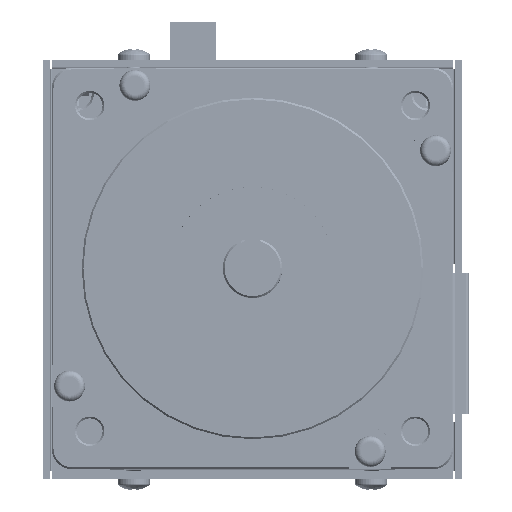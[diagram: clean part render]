
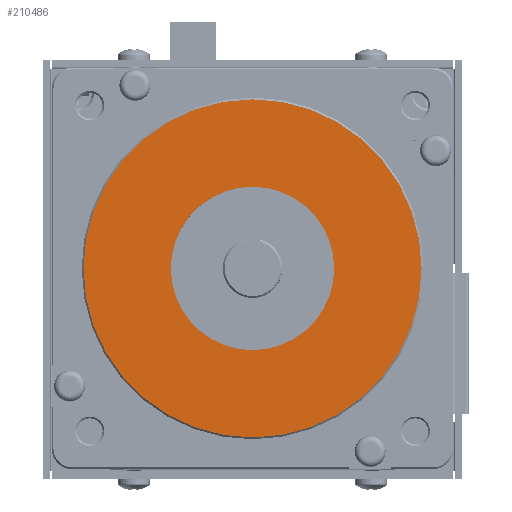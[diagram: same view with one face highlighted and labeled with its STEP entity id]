
A CAD part, top view. The second image highlights one B-rep face of the part: STEP entity #210486.
In plain terms, the highlighted planar face has unit normal (0, 0, 1).
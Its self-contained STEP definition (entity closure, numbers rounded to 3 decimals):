
#28756 = CARTESIAN_POINT ( 'NONE',  ( 0., 0., 1.524 ) ) ;
#28769 = CIRCLE ( 'NONE', #28906, 36.132 ) ;
#28898 = CARTESIAN_POINT ( 'NONE',  ( -36.132, 0., 1.524 ) ) ;
#28901 = CARTESIAN_POINT ( 'NONE',  ( 36.132, 0., 1.524 ) ) ;
#28903 = DIRECTION ( 'NONE',  ( 1., 0., 0. ) ) ;
#28904 = DIRECTION ( 'NONE',  ( 0., 0., 1. ) ) ;
#28906 = AXIS2_PLACEMENT_3D ( 'NONE', #28756, #28904, #28903 ) ;
#30694 = CARTESIAN_POINT ( 'NONE',  ( 17.462, 0., 1.524 ) ) ;
#30697 = CARTESIAN_POINT ( 'NONE',  ( -17.462, 0., 1.524 ) ) ;
#30699 = DIRECTION ( 'NONE',  ( 1., 0., 0. ) ) ;
#30701 = DIRECTION ( 'NONE',  ( 0., 0., 1. ) ) ;
#30704 = CARTESIAN_POINT ( 'NONE',  ( 0., 0., 1.524 ) ) ;
#30706 = AXIS2_PLACEMENT_3D ( 'NONE', #30704, #30701, #30699 ) ;
#30708 = CIRCLE ( 'NONE', #30706, 17.462 ) ;
#73572 = DIRECTION ( 'NONE',  ( 1., 0., 0. ) ) ;
#73574 = DIRECTION ( 'NONE',  ( 0., 0., 1. ) ) ;
#73577 = CARTESIAN_POINT ( 'NONE',  ( 0., 0., 1.524 ) ) ;
#73579 = AXIS2_PLACEMENT_3D ( 'NONE', #73577, #73574, #73572 ) ;
#73581 = CIRCLE ( 'NONE', #73579, 17.462 ) ;
#73585 = DIRECTION ( 'NONE',  ( 1., 0., 0. ) ) ;
#73587 = DIRECTION ( 'NONE',  ( 0., 0., 1. ) ) ;
#73588 = CARTESIAN_POINT ( 'NONE',  ( 0., 0., 1.524 ) ) ;
#73589 = AXIS2_PLACEMENT_3D ( 'NONE', #73588, #73587, #73585 ) ;
#73590 = CIRCLE ( 'NONE', #73589, 36.132 ) ;
#73605 = DIRECTION ( 'NONE',  ( 1., 0., 0. ) ) ;
#73606 = DIRECTION ( 'NONE',  ( 0., 0., 1. ) ) ;
#73607 = CARTESIAN_POINT ( 'NONE',  ( 0., 0., 1.524 ) ) ;
#73612 = AXIS2_PLACEMENT_3D ( 'NONE', #73607, #73606, #73605 ) ;
#73614 = PLANE ( 'NONE',  #73612 ) ;
#73615 = FACE_BOUND ( 'NONE', #210465, .T. ) ;
#73616 = FACE_OUTER_BOUND ( 'NONE', #210399, .T. ) ;
#111663 = EDGE_CURVE ( 'NONE', #111664, #111666, #28769, .T. ) ;
#111664 = VERTEX_POINT ( 'NONE', #28901 ) ;
#111666 = VERTEX_POINT ( 'NONE', #28898 ) ;
#112202 = EDGE_CURVE ( 'NONE', #112204, #112205, #30708, .T. ) ;
#112204 = VERTEX_POINT ( 'NONE', #30697 ) ;
#112205 = VERTEX_POINT ( 'NONE', #30694 ) ;
#210399 = EDGE_LOOP ( 'NONE', ( #210400, #210464 ) ) ;
#210400 = ORIENTED_EDGE ( 'NONE', *, *, #210463, .T. ) ;
#210463 = EDGE_CURVE ( 'NONE', #111666, #111664, #73590, .T. ) ;
#210464 = ORIENTED_EDGE ( 'NONE', *, *, #111663, .T. ) ;
#210465 = EDGE_LOOP ( 'NONE', ( #210466, #210467 ) ) ;
#210466 = ORIENTED_EDGE ( 'NONE', *, *, #112202, .F. ) ;
#210467 = ORIENTED_EDGE ( 'NONE', *, *, #210468, .F. ) ;
#210468 = EDGE_CURVE ( 'NONE', #112205, #112204, #73581, .T. ) ;
#210486 = ADVANCED_FACE ( 'NONE', ( #73616, #73615 ), #73614, .T. ) ;
